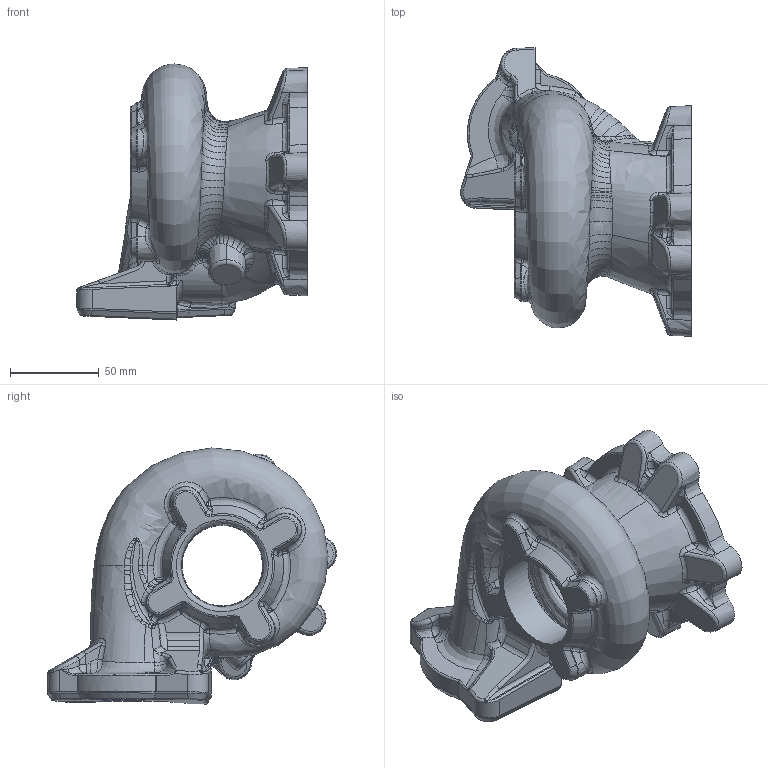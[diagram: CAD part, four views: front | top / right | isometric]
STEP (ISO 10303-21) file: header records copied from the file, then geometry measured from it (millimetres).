
FILE_DESCRIPTION(/* description */ ('************************************************************************VDAIS VERSION/LEIST: 1.0/AF1B0 --------------ANGABEN UEBER DEN ABSENDER--------------------------------SENDING COMPANY : SENDER''S NAME : ~ TELEPHONE NO. : ~ ADDRESS : CAD-SYSTEM : EUKLID B25-185 DATE : 14-AUG-2026 FILENAME : RT_PANKL_TURBINENGEHAEUSE_1001_34678_2026_08_14--------------ANGABEN UEBER DAS TEIL------------------------------------PROJECT : OBJECT IDENT. : VARIANT : CONFIDENTIALITY : VALIDITY DATE : --------------ANGABEN UEBER DEN EMPFAENGER------------------------------RECEIVING COMPANY : RECEIVER''S NAME/DEPT. : ------------------------------------------------------------------------'),/* implementation_level */ '2;1');
FILE_NAME(/* name */ 'RT_Pankl_Turbinengehaeuse_1001_34678_2026_08_14_TEST.step',/* time_stamp */ '2026-08-14T11:17:50+02:00',/* author */ (''),/* organization */ (''),/* preprocessor_version */ 'ST-DEVELOPER v20.1',/* originating_system */ 'Autodesk Translation Framework v15.8.0.0',/* authorisation */ '');
FILE_SCHEMA (('AUTOMOTIVE_DESIGN { 1 0 10303 214 3 1 1 }'));
Products named in the file (2): 2026-08-14-11-16-32-629; 2026-08-14-11-16-40-899
Assembly tree (1 placements, depth 2):
  2026-08-14-11-16-32-629
    2026-08-14-11-16-40-899
Bounding box: 129.73 x 162.39 x 143.94 mm (x, y, z)
Surface area: 122570.6 mm2 (no closed solid volume)
Topology: 0 solids, 2 shells, 1021 faces, 3280 edges, 2159 vertices
Faces by surface type: bspline 860, plane 92, cylinder 33, cone 22, torus 14
Entity records: 169261 total; most frequent: CARTESIAN_POINT 148510, ORIENTED_EDGE 6323, EDGE_CURVE 3196, B_SPLINE_CURVE_WITH_KNOTS 2694, VERTEX_POINT 2159, DIRECTION 1064, EDGE_LOOP 1025, FACE_OUTER_BOUND 1021
